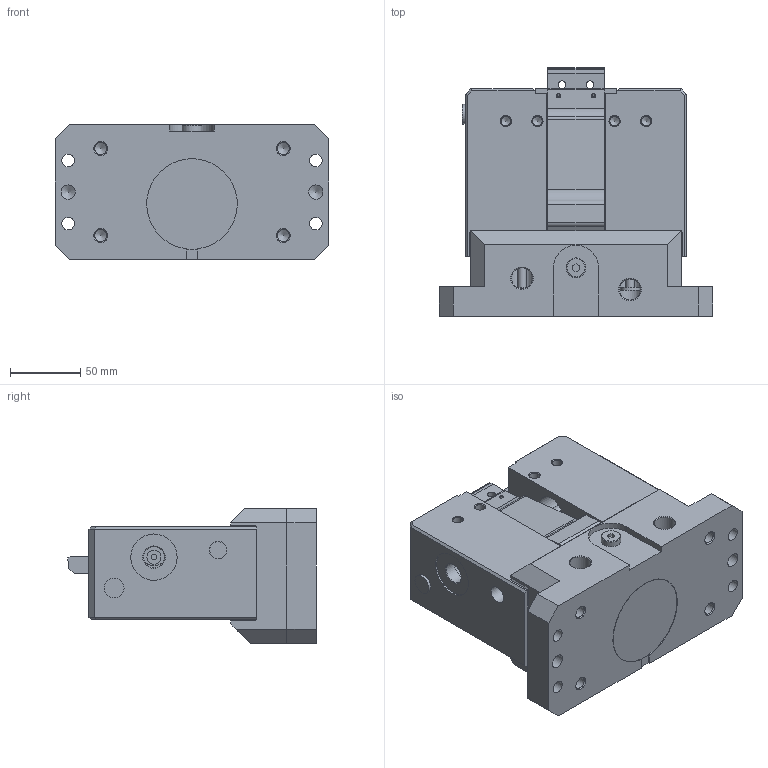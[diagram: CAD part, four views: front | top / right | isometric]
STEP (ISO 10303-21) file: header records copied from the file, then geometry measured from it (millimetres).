
FILE_DESCRIPTION (( 'STEP AP203' ), '1' );
FILE_NAME ('ASUTEC_ASMR-400-EW-15.STEP', '2017-10-19T10:49:16', ( '' ), ( '' ), 'SwSTEP 2.0', 'SolidWorks 2015', '' );
FILE_SCHEMA (( 'CONFIG_CONTROL_DESIGN' ));
Length unit declared in the file: metre
Products named in the file (1): ASUTEC_ASMR-400-EW-15
Bounding box: 195 x 177.18 x 96.1 mm (x, y, z)
Volume: 1611791.9 mm3; surface area: 241161.8 mm2
Topology: 3 solids, 3 shells, 595 faces, 1505 edges, 992 vertices
Faces by surface type: plane 378, cylinder 133, bspline 46, cone 37, torus 1
Full cylindrical faces by diameter (mm): 1.8 x1, 2.5 x2, 4 x2, 5.5 x2, 6 x4, 6.8 x4, 8.5 x4, 8.7 x1, 9 x5, 9.4 x1, 10 x4, 10.1 x2, 11.3 x4, 12 x3, 12.5 x2, 13.95 x4, 14 x6, 15 x6, 16 x4, 18 x1, 20 x2, 22 x4, 22.5 x2, 26 x2, 33 x2, 36 x1, 60 x2
Entity records: 20240 total; most frequent: CARTESIAN_POINT 6635, ORIENTED_EDGE 2676, DIRECTION 2619, EDGE_CURVE 1338, VECTOR 945, LINE 945, VERTEX_POINT 943, AXIS2_PLACEMENT_3D 837
